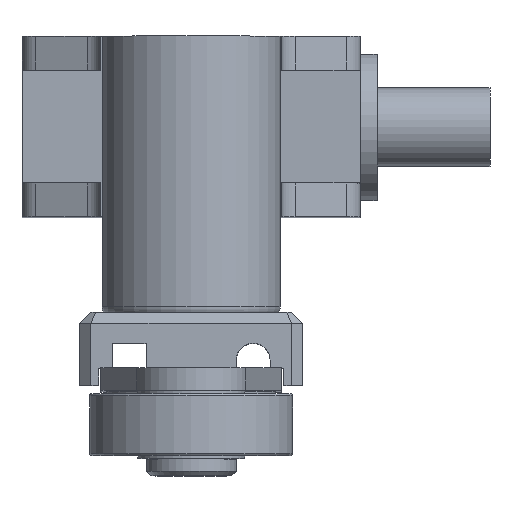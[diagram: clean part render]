
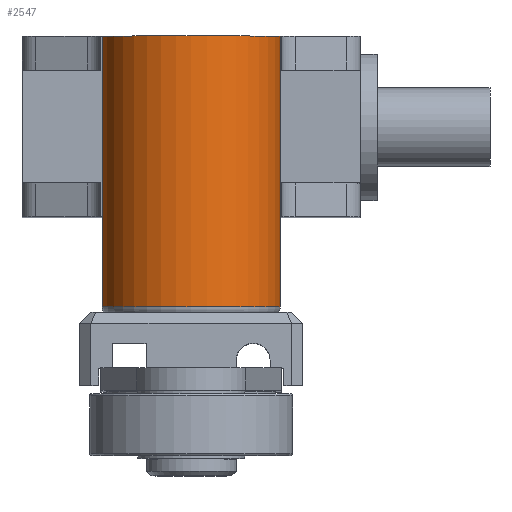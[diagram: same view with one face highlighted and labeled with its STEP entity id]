
A CAD part, top view. The second image highlights one B-rep face of the part: STEP entity #2547.
In plain terms, the highlighted cylindrical face has radius 7.9 mm (diameter 15.8 mm), a full revolution.
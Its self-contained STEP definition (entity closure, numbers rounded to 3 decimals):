
#362=FACE_OUTER_BOUND('',#532,.T.);
#532=EDGE_LOOP('',(#2335,#2336,#2337,#2338,#2339,#2340,#2341));
#769=LINE('',#4306,#1010);
#770=LINE('',#4308,#1011);
#771=LINE('',#4312,#1012);
#1010=VECTOR('',#3568,7.9);
#1011=VECTOR('',#3569,10.);
#1012=VECTOR('',#3572,10.);
#1114=CIRCLE('',#2845,7.9);
#1118=CIRCLE('',#2851,7.9);
#1119=CIRCLE('',#2852,7.9);
#1332=VERTEX_POINT('',#4296);
#1335=VERTEX_POINT('',#4305);
#1336=VERTEX_POINT('',#4307);
#1337=VERTEX_POINT('',#4309);
#1338=VERTEX_POINT('',#4311);
#1666=EDGE_CURVE('',#1332,#1332,#1114,.T.);
#1670=EDGE_CURVE('',#1332,#1335,#769,.T.);
#1671=EDGE_CURVE('',#1336,#1335,#770,.T.);
#1672=EDGE_CURVE('',#1337,#1336,#1118,.T.);
#1673=EDGE_CURVE('',#1337,#1338,#771,.T.);
#1674=EDGE_CURVE('',#1335,#1338,#1119,.T.);
#2335=ORIENTED_EDGE('',*,*,#1666,.F.);
#2336=ORIENTED_EDGE('',*,*,#1670,.T.);
#2337=ORIENTED_EDGE('',*,*,#1671,.F.);
#2338=ORIENTED_EDGE('',*,*,#1672,.F.);
#2339=ORIENTED_EDGE('',*,*,#1673,.T.);
#2340=ORIENTED_EDGE('',*,*,#1674,.F.);
#2341=ORIENTED_EDGE('',*,*,#1670,.F.);
#2407=CYLINDRICAL_SURFACE('',#2850,7.9);
#2547=ADVANCED_FACE('',(#362),#2407,.T.);
#2845=AXIS2_PLACEMENT_3D('',#4297,#3556,#3557);
#2850=AXIS2_PLACEMENT_3D('',#4304,#3566,#3567);
#2851=AXIS2_PLACEMENT_3D('',#4310,#3570,#3571);
#2852=AXIS2_PLACEMENT_3D('',#4313,#3573,#3574);
#3556=DIRECTION('center_axis',(0.,0.,1.));
#3557=DIRECTION('ref_axis',(-1.,0.,0.));
#3566=DIRECTION('center_axis',(0.,0.,1.));
#3567=DIRECTION('ref_axis',(-1.,0.,0.));
#3568=DIRECTION('',(0.,0.,-1.));
#3569=DIRECTION('',(0.,0.,1.));
#3570=DIRECTION('center_axis',(0.,0.,-1.));
#3571=DIRECTION('ref_axis',(-1.,0.,0.));
#3572=DIRECTION('',(0.,0.,1.));
#3573=DIRECTION('center_axis',(0.,0.,-1.));
#3574=DIRECTION('ref_axis',(-1.,0.,0.));
#4296=CARTESIAN_POINT('',(7.9,4.5,24.));
#4297=CARTESIAN_POINT('Origin',(0.,4.5,24.));
#4304=CARTESIAN_POINT('Origin',(0.,4.5,0.));
#4305=CARTESIAN_POINT('',(7.9,4.5,16.));
#4306=CARTESIAN_POINT('',(7.9,4.5,0.));
#4307=CARTESIAN_POINT('',(7.9,4.5,0.));
#4308=CARTESIAN_POINT('',(7.9,4.5,0.));
#4309=CARTESIAN_POINT('',(-7.9,4.5,0.));
#4310=CARTESIAN_POINT('Origin',(0.,4.5,0.));
#4311=CARTESIAN_POINT('',(-7.9,4.5,16.));
#4312=CARTESIAN_POINT('',(-7.9,4.5,0.));
#4313=CARTESIAN_POINT('Origin',(0.,4.5,16.));
